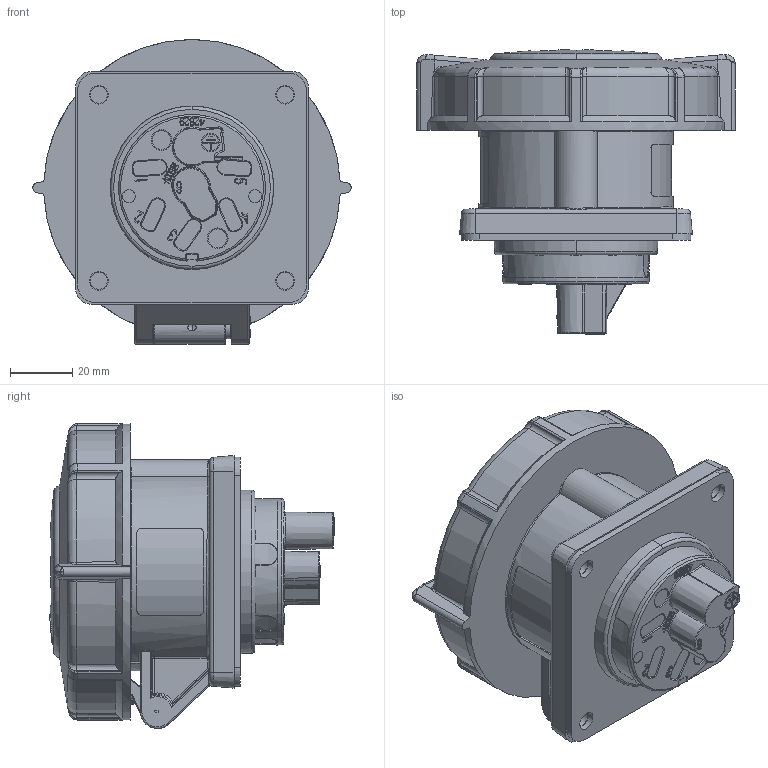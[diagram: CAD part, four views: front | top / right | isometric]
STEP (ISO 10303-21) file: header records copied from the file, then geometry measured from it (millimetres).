
FILE_DESCRIPTION((''),'2;1');
FILE_NAME('2711_SW0001','2020-11-20T09:12:54',('funke002'),('MENNEKES'),'CREO PARAMETRIC BY PTC INC, 2019080','CREO PARAMETRIC BY PTC INC, 2019080','');
FILE_SCHEMA(('AUTOMOTIVE_DESIGN { 1 0 10303 214 1 1 1 1 }'));
Products named in the file (1): 2711_SW0001
Bounding box: 102.6 x 91.78 x 98.29 mm (x, y, z)
Volume: 324200.8 mm3; surface area: 41974.9 mm2
Topology: 1 solids, 1 shells, 1677 faces, 4449 edges, 2827 vertices
Faces by surface type: plane 917, bspline 296, cylinder 271, torus 101, cone 55, extrusion 20, sphere 17
Entity records: 76038 total; most frequent: CARTESIAN_POINT 24741, ORIENTED_EDGE 8884, DIRECTION 7018, EDGE_CURVE 4442, VERTEX_POINT 2827, VECTOR 2746, LINE 2726, AXIS2_PLACEMENT_3D 2136
